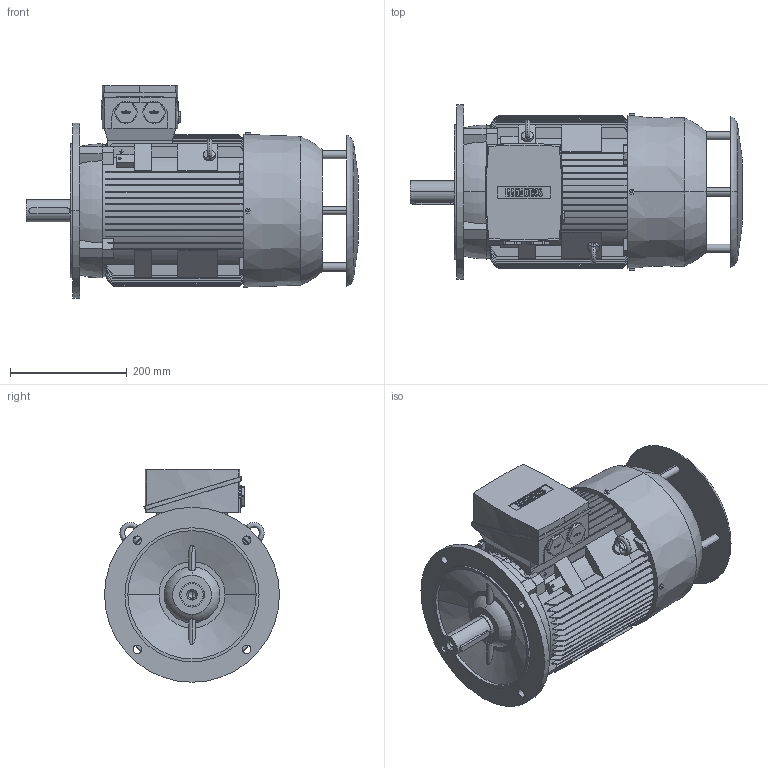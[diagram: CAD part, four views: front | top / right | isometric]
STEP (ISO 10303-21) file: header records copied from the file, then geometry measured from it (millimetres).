
FILE_DESCRIPTION(('STEP AP214'),'1');
FILE_NAME('cctmp_B9610A84-1525-45F3-B4C8-02A001AF72E8_2026_04_16_11_35_11_0081_25984..stp','2026-04-16T09:35:11',('KiM GmbH'),('CADClick - www.CADClick.com'),'Spatial InterOp 3D',' ','unknown authorization');
FILE_SCHEMA(('AUTOMOTIVE_DESIGN'));
Length unit declared in the file: millimetre
Products named in the file (1): 2026_04_16_11_35_11_0079
Bounding box: 569.5 x 300 x 364.5 mm (x, y, z)
Volume: 22053239.2 mm3; surface area: 1096344.3 mm2
Topology: 7 solids, 7 shells, 951 faces, 2600 edges, 1711 vertices
Faces by surface type: plane 561, cylinder 232, torus 132, cone 22, sphere 4
Entity records: 44624 total; most frequent: CARTESIAN_POINT 13244, ORIENTED_EDGE 5196, DIRECTION 4590, EDGE_CURVE 2598, VERTEX_POINT 1711, LINE 1548, VECTOR 1548, AXIS2_PLACEMENT_3D 1521
